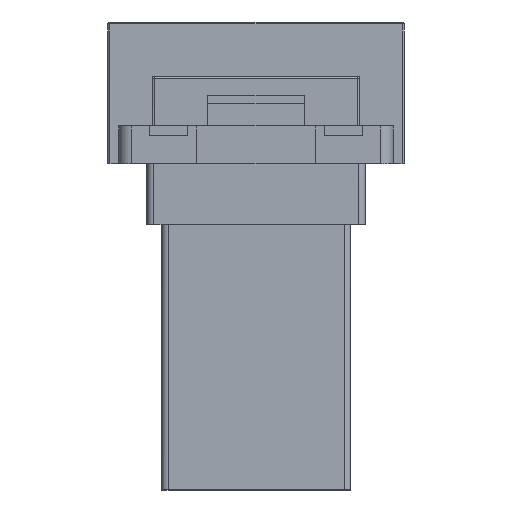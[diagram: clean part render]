
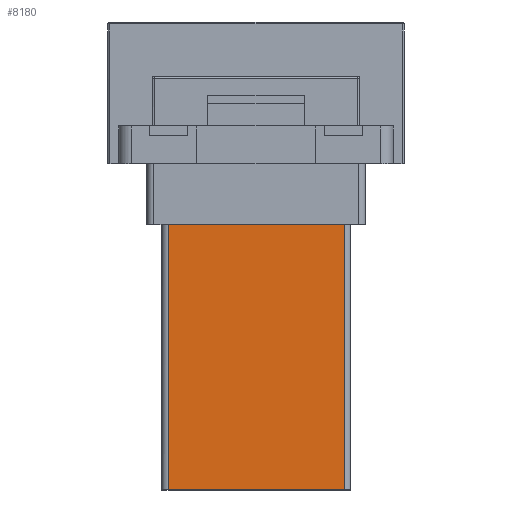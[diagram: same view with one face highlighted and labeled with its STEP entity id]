
A CAD part, front view. The second image highlights one B-rep face of the part: STEP entity #8180.
In plain terms, the highlighted free-form (B-spline) face has degree [1, 1] with [2, 2] control points.
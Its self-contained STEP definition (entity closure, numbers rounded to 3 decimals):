
#8180 = ADVANCED_FACE('',(#8181),#8227,.T.);
#8181 = FACE_BOUND('',#8182,.T.);
#8182 = EDGE_LOOP('',(#8183,#8196,#8207,#8218));
#8183 = ORIENTED_EDGE('',*,*,#8184,.F.);
#8184 = EDGE_CURVE('',#8185,#8187,#8189,.T.);
#8185 = VERTEX_POINT('',#8186);
#8186 = CARTESIAN_POINT('',(14.725,13.98,0.285));
#8187 = VERTEX_POINT('',#8188);
#8188 = CARTESIAN_POINT('',(35.,13.98,0.285));
#8189 = B_SPLINE_CURVE_WITH_KNOTS('',5,(#8190,#8191,#8192,#8193,#8194,
    #8195),.UNSPECIFIED.,.F.,.F.,(6,6),(0.,20.275),
  .PIECEWISE_BEZIER_KNOTS.);
#8190 = CARTESIAN_POINT('',(14.725,13.98,0.285));
#8191 = CARTESIAN_POINT('',(18.78,13.98,0.285));
#8192 = CARTESIAN_POINT('',(22.835,13.98,0.285));
#8193 = CARTESIAN_POINT('',(26.89,13.98,0.285));
#8194 = CARTESIAN_POINT('',(30.945,13.98,0.285));
#8195 = CARTESIAN_POINT('',(35.,13.98,0.285));
#8196 = ORIENTED_EDGE('',*,*,#8197,.F.);
#8197 = EDGE_CURVE('',#8198,#8185,#8200,.T.);
#8198 = VERTEX_POINT('',#8199);
#8199 = CARTESIAN_POINT('',(14.725,0.5,0.285));
#8200 = B_SPLINE_CURVE_WITH_KNOTS('',5,(#8201,#8202,#8203,#8204,#8205,
    #8206),.UNSPECIFIED.,.F.,.F.,(6,6),(0.,13.48),
  .PIECEWISE_BEZIER_KNOTS.);
#8201 = CARTESIAN_POINT('',(14.725,0.5,0.285));
#8202 = CARTESIAN_POINT('',(14.725,3.196,0.285));
#8203 = CARTESIAN_POINT('',(14.725,5.892,0.285));
#8204 = CARTESIAN_POINT('',(14.725,8.588,0.285));
#8205 = CARTESIAN_POINT('',(14.725,11.284,0.285));
#8206 = CARTESIAN_POINT('',(14.725,13.98,0.285));
#8207 = ORIENTED_EDGE('',*,*,#8208,.F.);
#8208 = EDGE_CURVE('',#8209,#8198,#8211,.T.);
#8209 = VERTEX_POINT('',#8210);
#8210 = CARTESIAN_POINT('',(35.,0.5,0.285));
#8211 = B_SPLINE_CURVE_WITH_KNOTS('',5,(#8212,#8213,#8214,#8215,#8216,
    #8217),.UNSPECIFIED.,.F.,.F.,(6,6),(0.,20.275),
  .PIECEWISE_BEZIER_KNOTS.);
#8212 = CARTESIAN_POINT('',(35.,0.5,0.285));
#8213 = CARTESIAN_POINT('',(30.945,0.5,0.285));
#8214 = CARTESIAN_POINT('',(26.89,0.5,0.285));
#8215 = CARTESIAN_POINT('',(22.835,0.5,0.285));
#8216 = CARTESIAN_POINT('',(18.78,0.5,0.285));
#8217 = CARTESIAN_POINT('',(14.725,0.5,0.285));
#8218 = ORIENTED_EDGE('',*,*,#8219,.T.);
#8219 = EDGE_CURVE('',#8209,#8187,#8220,.T.);
#8220 = B_SPLINE_CURVE_WITH_KNOTS('',5,(#8221,#8222,#8223,#8224,#8225,
    #8226),.UNSPECIFIED.,.F.,.F.,(6,6),(0.,13.48),
  .PIECEWISE_BEZIER_KNOTS.);
#8221 = CARTESIAN_POINT('',(35.,0.5,0.285));
#8222 = CARTESIAN_POINT('',(35.,3.196,0.285));
#8223 = CARTESIAN_POINT('',(35.,5.892,0.285));
#8224 = CARTESIAN_POINT('',(35.,8.588,0.285));
#8225 = CARTESIAN_POINT('',(35.,11.284,0.285));
#8226 = CARTESIAN_POINT('',(35.,13.98,0.285));
#8227 = B_SPLINE_SURFACE_WITH_KNOTS('',1,1,(
    (#8228,#8229)
    ,(#8230,#8231
    )),.UNSPECIFIED.,.F.,.F.,.F.,(2,2),(2,2),(0.,1.504),(0.,1.)
  ,.PIECEWISE_BEZIER_KNOTS.);
#8228 = CARTESIAN_POINT('',(14.725,0.5,0.285));
#8229 = CARTESIAN_POINT('',(14.725,13.98,0.285));
#8230 = CARTESIAN_POINT('',(35.,0.5,0.285));
#8231 = CARTESIAN_POINT('',(35.,13.98,0.285));
